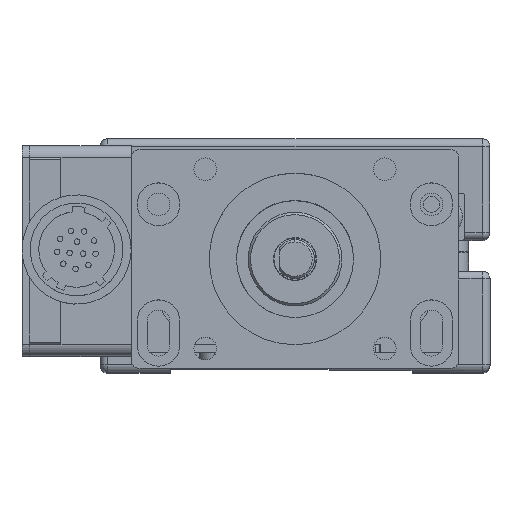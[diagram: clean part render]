
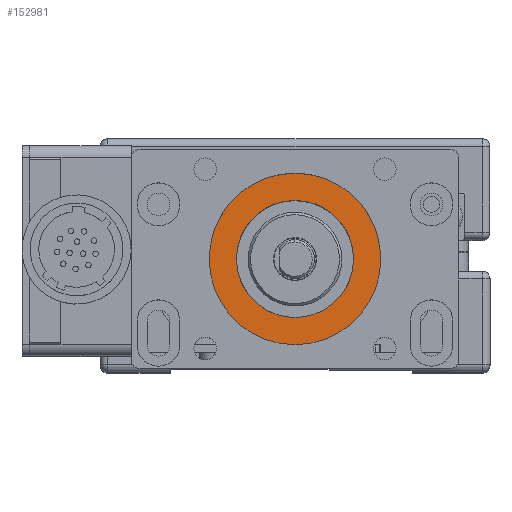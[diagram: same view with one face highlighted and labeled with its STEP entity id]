
A CAD part, top view. The second image highlights one B-rep face of the part: STEP entity #152981.
In plain terms, the highlighted planar face has unit normal (0, 0, 1).
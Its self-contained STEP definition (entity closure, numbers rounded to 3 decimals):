
#7022 = PLANE ( 'NONE',  #74518 ) ;
#7963 = DIRECTION ( 'NONE',  ( 1., 0., 0. ) ) ;
#8083 = DIRECTION ( 'NONE',  ( 0., 0., 1. ) ) ;
#9340 = DIRECTION ( 'NONE',  ( 0., 0., -1. ) ) ;
#10166 = AXIS2_PLACEMENT_3D ( 'NONE', #118657, #9340, #34064 ) ;
#24338 = DIRECTION ( 'NONE',  ( 0., 0., 1. ) ) ;
#24554 = ORIENTED_EDGE ( 'NONE', *, *, #98189, .T. ) ;
#30955 = CARTESIAN_POINT ( 'NONE',  ( -11., 0., 2.5 ) ) ;
#30970 = CARTESIAN_POINT ( 'NONE',  ( 0., 0., 2.5 ) ) ;
#33031 = EDGE_CURVE ( 'NONE', #107866, #134951, #91269, .T. ) ;
#34064 = DIRECTION ( 'NONE',  ( 1., 0., 0. ) ) ;
#41705 = EDGE_LOOP ( 'NONE', ( #44340, #123782 ) ) ;
#42896 = CARTESIAN_POINT ( 'NONE',  ( 7.5, 0., 2.5 ) ) ;
#44340 = ORIENTED_EDGE ( 'NONE', *, *, #147167, .T. ) ;
#54054 = VERTEX_POINT ( 'NONE', #103635 ) ;
#55603 = AXIS2_PLACEMENT_3D ( 'NONE', #143291, #24338, #107367 ) ;
#55992 = CIRCLE ( 'NONE', #96811, 11. ) ;
#56049 = CIRCLE ( 'NONE', #10166, 7.5 ) ;
#56479 = FACE_OUTER_BOUND ( 'NONE', #83383, .T. ) ;
#56542 = ORIENTED_EDGE ( 'NONE', *, *, #33031, .T. ) ;
#67675 = DIRECTION ( 'NONE',  ( 1., 0., 0. ) ) ;
#68632 = CARTESIAN_POINT ( 'NONE',  ( 0., 0., 2.5 ) ) ;
#71121 = CARTESIAN_POINT ( 'NONE',  ( 0., 0., 2.5 ) ) ;
#74518 = AXIS2_PLACEMENT_3D ( 'NONE', #30970, #93987, #67675 ) ;
#81128 = CIRCLE ( 'NONE', #121891, 7.5 ) ;
#82497 = CARTESIAN_POINT ( 'NONE',  ( 11., 0., 2.5 ) ) ;
#83383 = EDGE_LOOP ( 'NONE', ( #24554, #56542 ) ) ;
#91269 = CIRCLE ( 'NONE', #55603, 11. ) ;
#93192 = FACE_BOUND ( 'NONE', #41705, .T. ) ;
#93964 = EDGE_CURVE ( 'NONE', #54054, #95142, #81128, .T. ) ;
#93987 = DIRECTION ( 'NONE',  ( 0., 0., 1. ) ) ;
#95142 = VERTEX_POINT ( 'NONE', #42896 ) ;
#96811 = AXIS2_PLACEMENT_3D ( 'NONE', #71121, #8083, #105410 ) ;
#98189 = EDGE_CURVE ( 'NONE', #134951, #107866, #55992, .T. ) ;
#103635 = CARTESIAN_POINT ( 'NONE',  ( -7.5, 0., 2.5 ) ) ;
#105410 = DIRECTION ( 'NONE',  ( 1., 0., 0. ) ) ;
#107367 = DIRECTION ( 'NONE',  ( 1., 0., 0. ) ) ;
#107866 = VERTEX_POINT ( 'NONE', #30955 ) ;
#117286 = DIRECTION ( 'NONE',  ( 0., 0., -1. ) ) ;
#118657 = CARTESIAN_POINT ( 'NONE',  ( 0., 0., 2.5 ) ) ;
#121891 = AXIS2_PLACEMENT_3D ( 'NONE', #68632, #117286, #7963 ) ;
#123782 = ORIENTED_EDGE ( 'NONE', *, *, #93964, .T. ) ;
#134951 = VERTEX_POINT ( 'NONE', #82497 ) ;
#143291 = CARTESIAN_POINT ( 'NONE',  ( 0., 0., 2.5 ) ) ;
#147167 = EDGE_CURVE ( 'NONE', #95142, #54054, #56049, .T. ) ;
#152981 = ADVANCED_FACE ( 'NONE', ( #56479, #93192 ), #7022, .T. ) ;
